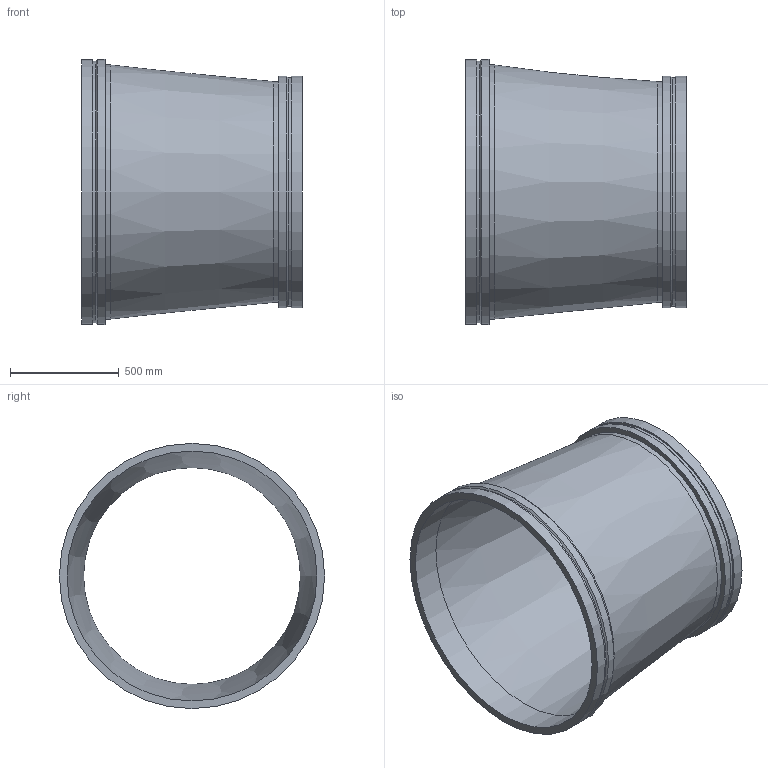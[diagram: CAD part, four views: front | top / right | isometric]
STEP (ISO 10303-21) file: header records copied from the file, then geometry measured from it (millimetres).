
FILE_DESCRIPTION(/* description */ ('VIC REDUCER CONCENTRIC No W50 VR','CAx-IF Rec.Pracs.---Representation and Presentation of Product Manufacturing Information (PMI)---4.0---2014-10-13'),/* implementation_level */ '2;1');
FILE_NAME(/* name */ 'C:\Users\kkamble\AppData\Roaming\Autodesk\ApplicationPlugins\Back Up\Victaulic_Vic-Ring_Reducer Concentric_No W50 VR (AGR)\Victaulic_Vic-Ring_Reducer Concentric_No W50 VR (AGR)_46.0x40.0 (1150x1000).stp',/* time_stamp */ '2020-09-10T11:47:48+05:00',/* author */ ('cps_temp'),/* organization */ ('Victaulic'),/* preprocessor_version */ 'ST-DEVELOPER v17.2',/* originating_system */ 'Autodesk Inventor 2019',/* authorisation */ '');
FILE_SCHEMA (('AP242_MANAGED_MODEL_BASED_3D_ENGINEERING_MIM_LF { 1 0 10303 442 1 1 4 }'));
Length unit declared in the file: inch
Products named in the file (1): W50 VR-46.0x40.0
Bounding box: 1016 x 1219.2 x 1219.2 mm (x, y, z)
Volume: 51173009.9 mm3; surface area: 7475002.8 mm2
Topology: 1 solids, 1 shells, 20 faces, 54 edges, 40 vertices
Faces by surface type: cylinder 10, plane 6, cone 4
Full cylindrical faces by diameter (mm): 996.95 x1, 1016 x1, 1050.925 x1, 1066.8 x2, 1149.35 x1, 1168.4 x1, 1203.325 x1, 1219.2 x2
Entity records: 830 total; most frequent: DIRECTION 162, CARTESIAN_POINT 132, ORIENTED_EDGE 108, AXIS2_PLACEMENT_3D 74, EDGE_CURVE 54, CIRCLE 40, VERTEX_POINT 40, EDGE_LOOP 26
